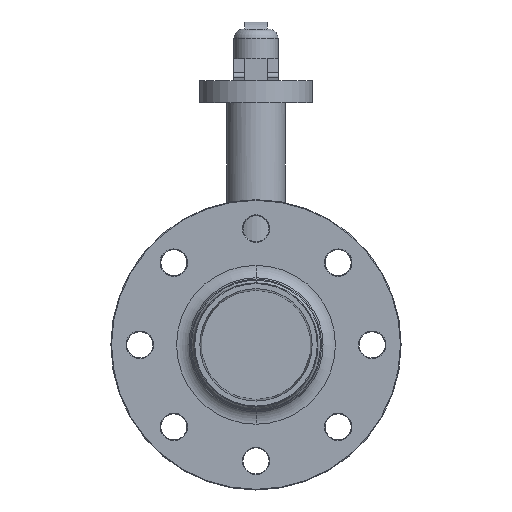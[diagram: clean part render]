
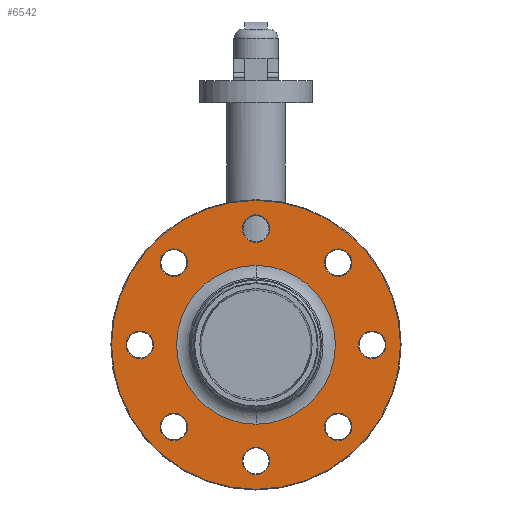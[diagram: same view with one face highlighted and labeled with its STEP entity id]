
A CAD part, front view. The second image highlights one B-rep face of the part: STEP entity #6542.
In plain terms, the highlighted planar face has unit normal (0, -1, 0).
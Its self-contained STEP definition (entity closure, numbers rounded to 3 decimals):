
#1193=CARTESIAN_POINT('',(0.,-52.915,0.));
#1194=DIRECTION('',(0.,-1.,0.));
#1195=DIRECTION('',(0.,0.,-1.));
#1196=AXIS2_PLACEMENT_3D('',#1193,#1194,#1195);
#1201=CARTESIAN_POINT('',(0.,-52.915,0.));
#1202=DIRECTION('',(0.,-1.,0.));
#1203=DIRECTION('',(0.,0.,1.));
#1204=AXIS2_PLACEMENT_3D('',#1201,#1202,#1203);
#1209=CARTESIAN_POINT('',(79.148,-52.915,0.));
#1210=DIRECTION('',(0.,1.,0.));
#1211=DIRECTION('',(0.,0.,-1.));
#1212=AXIS2_PLACEMENT_3D('',#1209,#1210,#1211);
#1217=CARTESIAN_POINT('',(79.148,-52.915,0.));
#1218=DIRECTION('',(0.,1.,0.));
#1219=DIRECTION('',(0.,0.,1.));
#1220=AXIS2_PLACEMENT_3D('',#1217,#1218,#1219);
#1225=CARTESIAN_POINT('',(55.966,-52.915,55.966));
#1226=DIRECTION('',(0.,1.,0.));
#1227=DIRECTION('',(0.,0.,-1.));
#1228=AXIS2_PLACEMENT_3D('',#1225,#1226,#1227);
#1233=CARTESIAN_POINT('',(55.966,-52.915,55.966));
#1234=DIRECTION('',(0.,1.,0.));
#1235=DIRECTION('',(0.,0.,1.));
#1236=AXIS2_PLACEMENT_3D('',#1233,#1234,#1235);
#1241=CARTESIAN_POINT('',(0.,-52.915,79.148));
#1242=DIRECTION('',(0.,1.,0.));
#1243=DIRECTION('',(0.,0.,-1.));
#1244=AXIS2_PLACEMENT_3D('',#1241,#1242,#1243);
#1249=CARTESIAN_POINT('',(0.,-52.915,79.148));
#1250=DIRECTION('',(0.,1.,0.));
#1251=DIRECTION('',(0.,0.,1.));
#1252=AXIS2_PLACEMENT_3D('',#1249,#1250,#1251);
#1257=CARTESIAN_POINT('',(-55.966,-52.915,55.966));
#1258=DIRECTION('',(0.,1.,0.));
#1259=DIRECTION('',(0.,0.,-1.));
#1260=AXIS2_PLACEMENT_3D('',#1257,#1258,#1259);
#1265=CARTESIAN_POINT('',(-55.966,-52.915,55.966));
#1266=DIRECTION('',(0.,1.,0.));
#1267=DIRECTION('',(0.,0.,1.));
#1268=AXIS2_PLACEMENT_3D('',#1265,#1266,#1267);
#1273=CARTESIAN_POINT('',(-79.148,-52.915,0.));
#1274=DIRECTION('',(0.,1.,0.));
#1275=DIRECTION('',(0.,0.,-1.));
#1276=AXIS2_PLACEMENT_3D('',#1273,#1274,#1275);
#1281=CARTESIAN_POINT('',(-79.148,-52.915,0.));
#1282=DIRECTION('',(0.,1.,0.));
#1283=DIRECTION('',(0.,0.,1.));
#1284=AXIS2_PLACEMENT_3D('',#1281,#1282,#1283);
#1289=CARTESIAN_POINT('',(-55.966,-52.915,-55.966));
#1290=DIRECTION('',(0.,1.,0.));
#1291=DIRECTION('',(0.,0.,-1.));
#1292=AXIS2_PLACEMENT_3D('',#1289,#1290,#1291);
#1297=CARTESIAN_POINT('',(-55.966,-52.915,-55.966));
#1298=DIRECTION('',(0.,1.,0.));
#1299=DIRECTION('',(0.,0.,1.));
#1300=AXIS2_PLACEMENT_3D('',#1297,#1298,#1299);
#1305=CARTESIAN_POINT('',(0.,-52.915,-79.148));
#1306=DIRECTION('',(0.,1.,0.));
#1307=DIRECTION('',(0.,0.,-1.));
#1308=AXIS2_PLACEMENT_3D('',#1305,#1306,#1307);
#1313=CARTESIAN_POINT('',(0.,-52.915,-79.148));
#1314=DIRECTION('',(0.,1.,0.));
#1315=DIRECTION('',(0.,0.,1.));
#1316=AXIS2_PLACEMENT_3D('',#1313,#1314,#1315);
#1321=CARTESIAN_POINT('',(55.966,-52.915,-55.966));
#1322=DIRECTION('',(0.,1.,0.));
#1323=DIRECTION('',(0.,0.,-1.));
#1324=AXIS2_PLACEMENT_3D('',#1321,#1322,#1323);
#1329=CARTESIAN_POINT('',(55.966,-52.915,-55.966));
#1330=DIRECTION('',(0.,1.,0.));
#1331=DIRECTION('',(0.,0.,1.));
#1332=AXIS2_PLACEMENT_3D('',#1329,#1330,#1331);
#1337=CARTESIAN_POINT('',(0.,-52.915,0.));
#1338=DIRECTION('',(0.,1.,0.));
#1339=DIRECTION('',(0.,0.,1.));
#1340=AXIS2_PLACEMENT_3D('',#1337,#1338,#1339);
#1345=CARTESIAN_POINT('',(0.,-52.915,0.));
#1346=DIRECTION('',(0.,1.,0.));
#1347=DIRECTION('',(0.,0.,-1.));
#1348=AXIS2_PLACEMENT_3D('',#1345,#1346,#1347);
#5282=CARTESIAN_POINT('',(0.,-52.915,54.117));
#5283=CARTESIAN_POINT('',(0.,-52.915,-54.117));
#5284=VERTEX_POINT('',#5282);
#5285=VERTEX_POINT('',#5283);
#5286=CARTESIAN_POINT('',(0.,-52.915,-98.44));
#5287=CARTESIAN_POINT('',(0.,-52.915,98.44));
#5288=VERTEX_POINT('',#5286);
#5289=VERTEX_POINT('',#5287);
#5290=CARTESIAN_POINT('',(79.148,-52.915,-9.399));
#5291=CARTESIAN_POINT('',(79.148,-52.915,9.399));
#5292=VERTEX_POINT('',#5290);
#5293=VERTEX_POINT('',#5291);
#5294=CARTESIAN_POINT('',(55.966,-52.915,46.567));
#5295=CARTESIAN_POINT('',(55.966,-52.915,65.365));
#5296=VERTEX_POINT('',#5294);
#5297=VERTEX_POINT('',#5295);
#5298=CARTESIAN_POINT('',(0.,-52.915,69.749));
#5299=CARTESIAN_POINT('',(0.,-52.915,88.547));
#5300=VERTEX_POINT('',#5298);
#5301=VERTEX_POINT('',#5299);
#5302=CARTESIAN_POINT('',(-55.966,-52.915,46.567));
#5303=CARTESIAN_POINT('',(-55.966,-52.915,65.365));
#5304=VERTEX_POINT('',#5302);
#5305=VERTEX_POINT('',#5303);
#5306=CARTESIAN_POINT('',(-79.148,-52.915,-9.399));
#5307=CARTESIAN_POINT('',(-79.148,-52.915,9.399));
#5308=VERTEX_POINT('',#5306);
#5309=VERTEX_POINT('',#5307);
#5310=CARTESIAN_POINT('',(-55.966,-52.915,-65.365));
#5311=CARTESIAN_POINT('',(-55.966,-52.915,-46.567));
#5312=VERTEX_POINT('',#5310);
#5313=VERTEX_POINT('',#5311);
#5314=CARTESIAN_POINT('',(0.,-52.915,-88.547));
#5315=CARTESIAN_POINT('',(0.,-52.915,-69.749));
#5316=VERTEX_POINT('',#5314);
#5317=VERTEX_POINT('',#5315);
#5318=CARTESIAN_POINT('',(55.966,-52.915,-65.365));
#5319=CARTESIAN_POINT('',(55.966,-52.915,-46.567));
#5320=VERTEX_POINT('',#5318);
#5321=VERTEX_POINT('',#5319);
#6478=CARTESIAN_POINT('',(-70.244,-52.915,0.));
#6479=DIRECTION('',(0.,1.,0.));
#6480=DIRECTION('',(0.,0.,1.));
#6481=AXIS2_PLACEMENT_3D('',#6478,#6479,#6480);
#6482=PLANE('',#6481);
#6484=ORIENTED_EDGE('',*,*,#6483,.F.);
#6485=ORIENTED_EDGE('',*,*,#6468,.F.);
#6486=EDGE_LOOP('',(#6484,#6485));
#6487=FACE_OUTER_BOUND('',#6486,.F.);
#6489=ORIENTED_EDGE('',*,*,#6488,.F.);
#6491=ORIENTED_EDGE('',*,*,#6490,.F.);
#6492=EDGE_LOOP('',(#6489,#6491));
#6493=FACE_BOUND('',#6492,.F.);
#6495=ORIENTED_EDGE('',*,*,#6494,.F.);
#6497=ORIENTED_EDGE('',*,*,#6496,.F.);
#6498=EDGE_LOOP('',(#6495,#6497));
#6499=FACE_BOUND('',#6498,.F.);
#6501=ORIENTED_EDGE('',*,*,#6500,.F.);
#6503=ORIENTED_EDGE('',*,*,#6502,.F.);
#6504=EDGE_LOOP('',(#6501,#6503));
#6505=FACE_BOUND('',#6504,.F.);
#6507=ORIENTED_EDGE('',*,*,#6506,.F.);
#6509=ORIENTED_EDGE('',*,*,#6508,.F.);
#6510=EDGE_LOOP('',(#6507,#6509));
#6511=FACE_BOUND('',#6510,.F.);
#6513=ORIENTED_EDGE('',*,*,#6512,.F.);
#6515=ORIENTED_EDGE('',*,*,#6514,.F.);
#6516=EDGE_LOOP('',(#6513,#6515));
#6517=FACE_BOUND('',#6516,.F.);
#6519=ORIENTED_EDGE('',*,*,#6518,.F.);
#6521=ORIENTED_EDGE('',*,*,#6520,.F.);
#6522=EDGE_LOOP('',(#6519,#6521));
#6523=FACE_BOUND('',#6522,.F.);
#6525=ORIENTED_EDGE('',*,*,#6524,.F.);
#6527=ORIENTED_EDGE('',*,*,#6526,.F.);
#6528=EDGE_LOOP('',(#6525,#6527));
#6529=FACE_BOUND('',#6528,.F.);
#6531=ORIENTED_EDGE('',*,*,#6530,.F.);
#6533=ORIENTED_EDGE('',*,*,#6532,.F.);
#6534=EDGE_LOOP('',(#6531,#6533));
#6535=FACE_BOUND('',#6534,.F.);
#6537=ORIENTED_EDGE('',*,*,#6536,.F.);
#6539=ORIENTED_EDGE('',*,*,#6538,.F.);
#6540=EDGE_LOOP('',(#6537,#6539));
#6541=FACE_BOUND('',#6540,.F.);
#1197=CIRCLE('',#1196,98.44);
#1205=CIRCLE('',#1204,98.44);
#1213=CIRCLE('',#1212,9.399);
#1221=CIRCLE('',#1220,9.399);
#1229=CIRCLE('',#1228,9.399);
#1237=CIRCLE('',#1236,9.399);
#1245=CIRCLE('',#1244,9.399);
#1253=CIRCLE('',#1252,9.399);
#1261=CIRCLE('',#1260,9.399);
#1269=CIRCLE('',#1268,9.399);
#1277=CIRCLE('',#1276,9.399);
#1285=CIRCLE('',#1284,9.399);
#1293=CIRCLE('',#1292,9.399);
#1301=CIRCLE('',#1300,9.399);
#1309=CIRCLE('',#1308,9.399);
#1317=CIRCLE('',#1316,9.399);
#1325=CIRCLE('',#1324,9.399);
#1333=CIRCLE('',#1332,9.399);
#1341=CIRCLE('',#1340,54.117);
#1349=CIRCLE('',#1348,54.117);
#6468=EDGE_CURVE('',#5289,#5288,#1205,.T.);
#6483=EDGE_CURVE('',#5288,#5289,#1197,.T.);
#6488=EDGE_CURVE('',#5292,#5293,#1213,.T.);
#6490=EDGE_CURVE('',#5293,#5292,#1221,.T.);
#6494=EDGE_CURVE('',#5296,#5297,#1229,.T.);
#6496=EDGE_CURVE('',#5297,#5296,#1237,.T.);
#6500=EDGE_CURVE('',#5300,#5301,#1245,.T.);
#6502=EDGE_CURVE('',#5301,#5300,#1253,.T.);
#6506=EDGE_CURVE('',#5304,#5305,#1261,.T.);
#6508=EDGE_CURVE('',#5305,#5304,#1269,.T.);
#6512=EDGE_CURVE('',#5308,#5309,#1277,.T.);
#6514=EDGE_CURVE('',#5309,#5308,#1285,.T.);
#6518=EDGE_CURVE('',#5312,#5313,#1293,.T.);
#6520=EDGE_CURVE('',#5313,#5312,#1301,.T.);
#6524=EDGE_CURVE('',#5316,#5317,#1309,.T.);
#6526=EDGE_CURVE('',#5317,#5316,#1317,.T.);
#6530=EDGE_CURVE('',#5320,#5321,#1325,.T.);
#6532=EDGE_CURVE('',#5321,#5320,#1333,.T.);
#6536=EDGE_CURVE('',#5284,#5285,#1341,.T.);
#6538=EDGE_CURVE('',#5285,#5284,#1349,.T.);
#6542=ADVANCED_FACE('',(#6487,#6493,#6499,#6505,#6511,#6517,#6523,#6529,#6535,
#6541),#6482,.F.);
